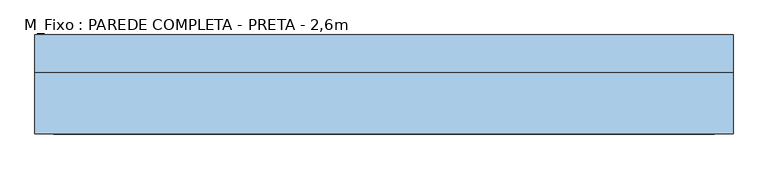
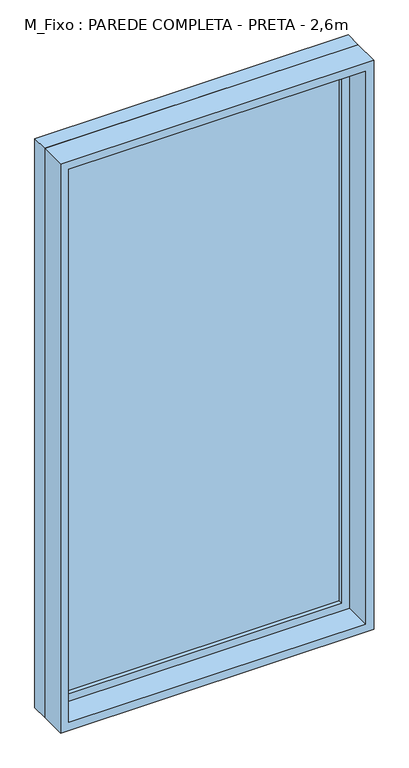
"""IFC4 building model written with IfcOpenShell, lengths in millimetres: window geometry, M_Fixo : PAREDE COMPLETA - PRETA - 2,6m."""

import ifcopenshell
import ifcopenshell.guid

model = None  # the IFC model being written
_history = None  # IfcOwnerHistory: only IFC2X3 demands one
_inside = {}  # id of a spatial element -> (the spatial element, [elements in it])
_under = {}  # id of a project, library or spatial element -> (it, [spatial elements below it])
_declared = {}  # id of a project -> (the project, [libraries it declares])
_typed = {}  # id of a type object -> (the type object, [elements of that type])
_made_of = {}  # id of a material, layer set ... -> (it, [elements and type objects made of it])


def new_model(schema):
    """Start an empty IFC model of exactly this schema.

    Asked for "IFC4X3", IfcOpenShell would pick the latest addendum, in which some entities
    have other attributes; the version numbers below select the first issue.
    IFC2X3 requires an IfcOwnerHistory on every rooted entity: one is made here for all.
    """
    global model, _history
    if schema == "IFC4X3":
        model = ifcopenshell.file(schema_version=(4, 3, 0, 0))
    else:
        model = ifcopenshell.file(schema=schema)
    _inside.clear()
    _under.clear()
    _declared.clear()
    _typed.clear()
    _made_of.clear()
    _history = None
    if model.schema == "IFC2X3":
        org = make("IfcOrganization", Name="unknown")
        user = make(
            "IfcPersonAndOrganization",
            ThePerson=make("IfcPerson", FamilyName="unknown"),
            TheOrganization=org,
        )
        app = make(
            "IfcApplication",
            ApplicationDeveloper=org,
            Version="unknown",
            ApplicationFullName="unknown",
            ApplicationIdentifier="unknown",
        )
        _history = make(
            "IfcOwnerHistory",
            OwningUser=user,
            OwningApplication=app,
            ChangeAction="ADDED",
            CreationDate=0,
        )
    return model


def make(cls, **values):
    """One entity of the class cls with the attributes given. An attribute that is None is left unset."""
    return model.create_entity(
        cls, **{name: value for name, value in values.items() if value is not None}
    )


def rooted(cls, **values):
    """An entity with a GlobalId (a new one), such as an element, a storey or a relation."""
    return make(cls, GlobalId=ifcopenshell.guid.new(), OwnerHistory=_history, **values)


def si_unit(unit_type, name, prefix=None):
    """IfcSIUnit, for example si_unit("LENGTHUNIT", "METRE", prefix="MILLI")."""
    return make("IfcSIUnit", UnitType=unit_type, Prefix=prefix, Name=name)


def assignment(units):
    """IfcUnitAssignment: the units of a project."""
    return None if units is None else make("IfcUnitAssignment", Units=units)


def point(xyz):
    """IfcCartesianPoint."""
    return None if xyz is None else make("IfcCartesianPoint", Coordinates=xyz)


def direction(xyz):
    """IfcDirection."""
    return None if xyz is None else make("IfcDirection", DirectionRatios=xyz)


def frame(location, z_axis=None, x_axis=None):
    """IfcAxis2Placement3D, a coordinate frame: its origin and axes. An axis left out is left unset."""
    return make(
        "IfcAxis2Placement3D",
        Location=point(location),
        Axis=direction(z_axis),
        RefDirection=direction(x_axis),
    )


def origin():
    """The frame at (0, 0, 0) with its axes left unset."""
    return frame((0.0, 0.0, 0.0))


def place(relative_to, where):
    """IfcLocalPlacement: puts the frame where relative to a parent placement (None: the world)."""
    return make(
        "IfcLocalPlacement", PlacementRelTo=relative_to, RelativePlacement=where
    )


def context(
    kind, dimensions, precision=None, world=None, true_north=None, identifier=None
):
    """IfcGeometricRepresentationContext, for example the 3D "Model" context."""
    return make(
        "IfcGeometricRepresentationContext",
        ContextIdentifier=identifier,
        ContextType=kind,
        CoordinateSpaceDimension=dimensions,
        Precision=precision,
        WorldCoordinateSystem=world,
        TrueNorth=true_north,
    )


def project(units=None, contexts=None):
    """IfcProject with its units and contexts."""
    return rooted(
        "IfcProject",
        Name="project",
        RepresentationContexts=contexts,
        UnitsInContext=assignment(units),
    )


def spatial(cls, under=None, at=None, **own):
    """A site, building, storey or space (cls), placed at a placement, below another one or the project."""
    s = rooted(cls, ObjectPlacement=at, **own)
    if under is not None:
        _under.setdefault(under.id(), (under, []))[1].append(s)
    return s


def polyline(points):
    """IfcPolyline through the points."""
    return make("IfcPolyline", Points=[point(p) for p in points])


def outline(outer, holes=None, kind="AREA"):
    """IfcArbitraryClosedProfileDef: a profile drawn as a closed curve; with holes, ...WithVoids."""
    if holes is None:
        return make("IfcArbitraryClosedProfileDef", ProfileType=kind, OuterCurve=outer)
    return make(
        "IfcArbitraryProfileDefWithVoids",
        ProfileType=kind,
        OuterCurve=outer,
        InnerCurves=holes,
    )


def extrude(swept, where, along, depth):
    """IfcExtrudedAreaSolid: the profile swept, set in the frame where, extruded along a direction by depth."""
    return make(
        "IfcExtrudedAreaSolid",
        SweptArea=swept,
        Position=where,
        ExtrudedDirection=direction(along),
        Depth=depth,
    )


def shape(context_of_items, identifier, shape_type, items):
    """IfcShapeRepresentation: the items that make up one representation, for example the "Body"."""
    return make(
        "IfcShapeRepresentation",
        ContextOfItems=context_of_items,
        RepresentationIdentifier=identifier,
        RepresentationType=shape_type,
        Items=items,
    )


def source(mapping_origin, context_of_items, identifier, shape_type, items):
    """IfcRepresentationMap: a shape defined once, which mapped items show again and again."""
    return make(
        "IfcRepresentationMap",
        MappingOrigin=mapping_origin,
        MappedRepresentation=shape(context_of_items, identifier, shape_type, items),
    )


def transform(
    local_origin,
    x_axis=None,
    y_axis=None,
    z_axis=None,
    scale=None,
    scale2=None,
    scale3=None,
    uniform=True,
):
    """IfcCartesianTransformationOperator3D, or its non-uniform kind. x_axis, y_axis, z_axis: its Axis1, 2, 3."""
    if uniform:
        return make(
            "IfcCartesianTransformationOperator3D",
            Axis1=direction(x_axis),
            Axis2=direction(y_axis),
            LocalOrigin=point(local_origin),
            Scale=scale,
            Axis3=direction(z_axis),
        )
    return make(
        "IfcCartesianTransformationOperator3DnonUniform",
        Axis1=direction(x_axis),
        Axis2=direction(y_axis),
        LocalOrigin=point(local_origin),
        Scale=scale,
        Axis3=direction(z_axis),
        Scale2=scale2,
        Scale3=scale3,
    )


def mapped(mapping_source, mapping_target):
    """IfcMappedItem: shows the shape of a source again, moved by a transform."""
    return make(
        "IfcMappedItem", MappingSource=mapping_source, MappingTarget=mapping_target
    )


def made_of(thing, what):
    """Note that an element or type object is made of a material, layer set ...; save() writes the relation."""
    if what is not None:
        _made_of.setdefault(what.id(), (what, []))[1].append(thing)
    return thing


def element(
    cls,
    number,
    at=None,
    inside=None,
    cuts=None,
    type_object=None,
    material=None,
    context=None,
    identifier="Body",
    shape_type=None,
    held_by="IfcProductDefinitionShape",
    body=None,
    shapes=None,
    **own,
):
    """One element of the class cls, such as IfcWall. Its Tag is "e" and its number.

    at: its placement. inside: the storey or other place that contains it. cuts: it is an
    opening in that element (IfcRelVoidsElement). A single representation is given by context,
    identifier, shape_type and body (its items); several are given by shapes. held_by: the class
    of the entity that holds the representations. save() writes the other relations.
    """
    e = rooted(cls, Tag="e%d" % number, ObjectPlacement=at, **own)
    if body is not None:
        shapes = [shape(context, identifier, shape_type, body)]
    if shapes is not None:
        e.Representation = make(held_by, Representations=shapes)
    if inside is not None:
        _inside.setdefault(inside.id(), (inside, []))[1].append(e)
    if cuts is not None:
        rooted(
            "IfcRelVoidsElement", RelatingBuildingElement=cuts, RelatedOpeningElement=e
        )
    if type_object is not None:
        _typed.setdefault(type_object.id(), (type_object, []))[1].append(e)
    return made_of(e, material)


def aggregate(whole, parts):
    """IfcRelAggregates: a whole, such as a stair, and the parts it consists of."""
    return rooted("IfcRelAggregates", RelatingObject=whole, RelatedObjects=parts)


def save(model, path):
    """Write the relations noted so far, then the file.

    IfcRelAggregates (storeys below a building ...), IfcRelContainedInSpatialStructure (elements
    in a storey), IfcRelDefinesByType, IfcRelAssociatesMaterial and IfcRelDeclares: one each for
    every whole, place, type object, material and project.
    """
    for whole, parts in _under.values():
        aggregate(whole, parts)
    for where, things in _inside.values():
        rooted(
            "IfcRelContainedInSpatialStructure",
            RelatedElements=things,
            RelatingStructure=where,
        )
    for kind, things in _typed.values():
        rooted("IfcRelDefinesByType", RelatedObjects=things, RelatingType=kind)
    for what, things in _made_of.values():
        rooted("IfcRelAssociatesMaterial", RelatedObjects=things, RelatingMaterial=what)
    for by, libraries in _declared.values():
        rooted("IfcRelDeclares", RelatingContext=by, RelatedDefinitions=libraries)
    model.write(path)


def m_fixo_parede_completa_preta_2_6m_3d7a7c46(model_context):
    return source(origin(), model_context, "Body", "SweptSolid", [
        extrude(outline(polyline([(-537.0, 62.0), (537.0, 62.0), (537.0, 50.0), (-537.0, 50.0), (-537.0, 62.0)])), frame((0.0, 0.0, 1563.0), z_axis=(0.0, 0.0, 1.0), x_axis=(1.0, 0.0, 0.0)), (0.0, 0.0, 1.0), 2174.0),
        extrude(outline(polyline([(3781.0, -581.0), (1519.0, -581.0), (1519.0, 581.0), (3781.0, 581.0), (3781.0, -581.0)]), holes=[polyline([(3737.0, -537.0), (3737.0, 537.0), (1563.0, 537.0), (1563.0, -537.0), (3737.0, -537.0)])]), frame((0.0, 34.0, 0.0), z_axis=(0.0, 1.0, 0.0), x_axis=(0.0, 0.0, 1.0)), (0.0, 0.0, 1.0), 44.0),
        extrude(outline(polyline([(3800.0, -600.0), (1500.0, -600.0), (1500.0, 600.0), (3800.0, 600.0), (3800.0, -600.0)]), holes=[polyline([(3781.0, -581.0), (3781.0, 581.0), (1519.0, 581.0), (1519.0, -581.0), (3781.0, -581.0)])]), frame((0.0, 34.0, 0.0), z_axis=(0.0, 1.0, 0.0), x_axis=(0.0, 0.0, 1.0)), (0.0, 0.0, 1.0), 64.0),
        extrude(outline(polyline([(3800.0, -600.0), (1500.0, -600.0), (1500.0, 600.0), (3800.0, 600.0), (3800.0, -600.0)]), holes=[polyline([(3768.0, -568.0), (3768.0, 568.0), (1532.0, 568.0), (1532.0, -568.0), (3768.0, -568.0)])]), frame((0.0, -72.0, 0.0), z_axis=(0.0, 1.0, 0.0), x_axis=(0.0, 0.0, 1.0)), (0.0, 0.0, 1.0), 106.0),
    ])


if __name__ == "__main__":
    model = new_model("IFC4")
    model_context = context("Model", 3, world=origin())
    ifc_project = project(units=[si_unit("LENGTHUNIT", "METRE", prefix="MILLI")], contexts=[model_context])
    site = spatial("IfcSite", under=ifc_project)
    building = spatial("IfcBuilding", under=site)
    placement = place(None, origin())
    m_fixo_parede_completa_preta_2_6m_shape = m_fixo_parede_completa_preta_2_6m_3d7a7c46(model_context)
    element("IfcWindow", 1, ObjectType="M_Fixo : PAREDE COMPLETA - PRETA - 2,6m", at=placement, inside=building, context=model_context, shape_type="MappedRepresentation", body=[
        mapped(m_fixo_parede_completa_preta_2_6m_shape, transform((0.0, 0.0, 0.0), x_axis=(1.0, 0.0, 0.0), y_axis=(0.0, 1.0, 0.0), z_axis=(0.0, 0.0, 1.0))),
    ])
    save(model, "model.ifc")
